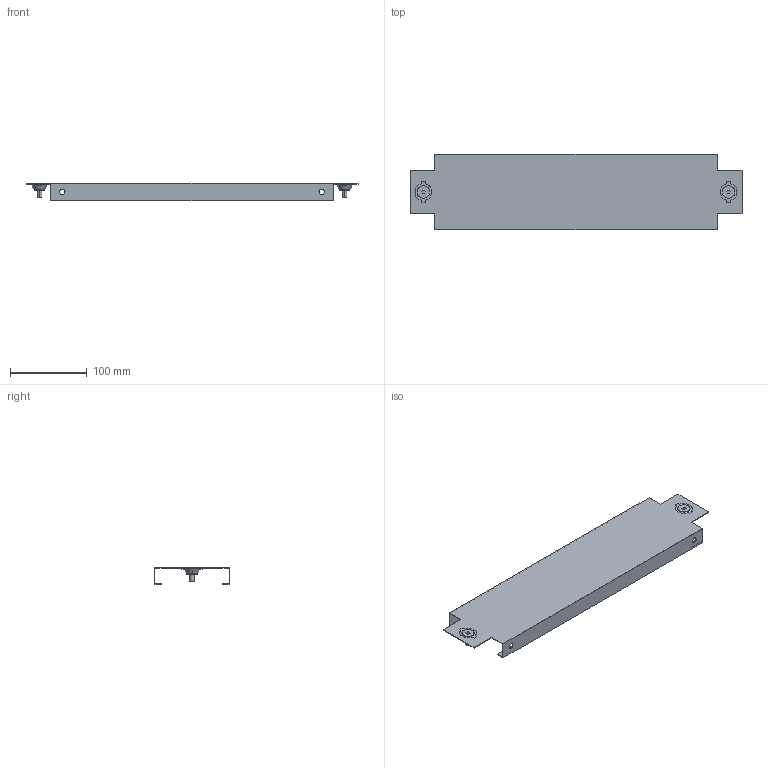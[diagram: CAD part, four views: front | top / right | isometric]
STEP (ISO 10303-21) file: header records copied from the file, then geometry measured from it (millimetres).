
FILE_DESCRIPTION((''),'2;1');
FILE_NAME('SB106112_3D_COLOUR','2013-07-26T',('SESA214371'),('Schneider-Electric'),'PRO/ENGINEER BY PARAMETRIC TECHNOLOGY CORPORATION, 2011410','PRO/ENGINEER BY PARAMETRIC TECHNOLOGY CORPORATION, 2011410','');
FILE_SCHEMA(('CONFIG_CONTROL_DESIGN'));
Length unit declared in the file: millimetre
Products named in the file (1): SB106112_3D_COLOUR
Bounding box: 434 x 99 x 22.7 mm (x, y, z)
Volume: 67220.6 mm3; surface area: 128339.1 mm2
Topology: 1 solids, 1 shells, 144 faces, 384 edges, 248 vertices
Faces by surface type: plane 94, cylinder 34, cone 16
Entity records: 4588 total; most frequent: CARTESIAN_POINT 890, ORIENTED_EDGE 768, DIRECTION 748, EDGE_CURVE 384, VECTOR 252, LINE 252, AXIS2_PLACEMENT_3D 248, VERTEX_POINT 248
